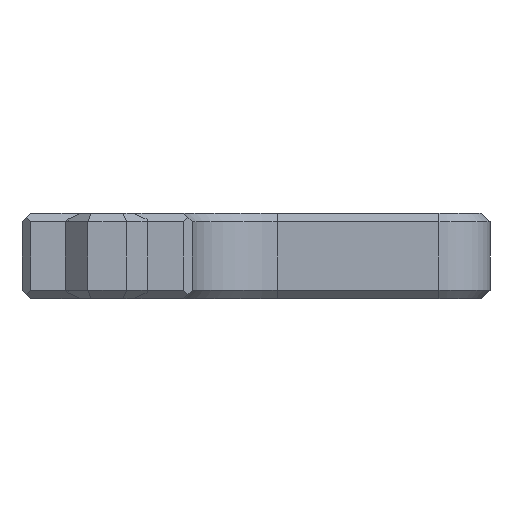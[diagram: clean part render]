
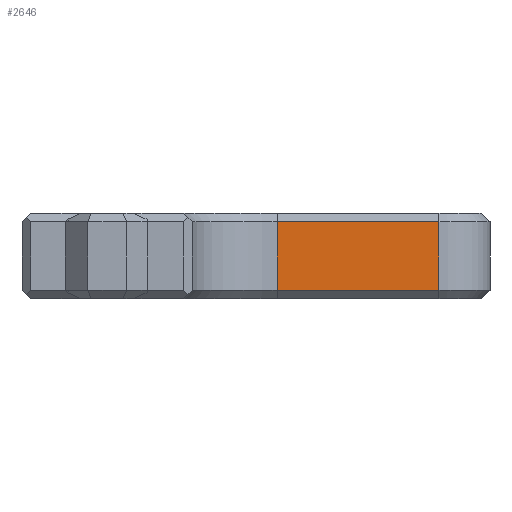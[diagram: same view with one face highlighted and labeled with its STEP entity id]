
A CAD part, left-side view. The second image highlights one B-rep face of the part: STEP entity #2646.
In plain terms, the highlighted planar face has unit normal (-1, 0, 0).
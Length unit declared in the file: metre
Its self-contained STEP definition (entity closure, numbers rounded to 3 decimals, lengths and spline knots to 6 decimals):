
#348=ORIENTED_EDGE('',*,*,#1093,.T.);
#349=ORIENTED_EDGE('',*,*,#1094,.T.);
#350=ORIENTED_EDGE('',*,*,#1095,.T.);
#351=ORIENTED_EDGE('',*,*,#1096,.T.);
#1093=EDGE_CURVE('',#1454,#1455,#1681,.F.);
#1094=EDGE_CURVE('',#1455,#1456,#1682,.T.);
#1095=EDGE_CURVE('',#1456,#1457,#1683,.T.);
#1096=EDGE_CURVE('',#1457,#1454,#1684,.T.);
#1454=VERTEX_POINT('',#4231);
#1455=VERTEX_POINT('',#4232);
#1456=VERTEX_POINT('',#4234);
#1457=VERTEX_POINT('',#4236);
#1681=LINE('',#4230,#2009);
#1682=LINE('',#4233,#2010);
#1683=LINE('',#4235,#2011);
#1684=LINE('',#4237,#2012);
#2009=VECTOR('',#3292,1.);
#2010=VECTOR('',#3293,1.);
#2011=VECTOR('',#3294,1.);
#2012=VECTOR('',#3295,1.);
#2187=EDGE_LOOP('',(#348,#349,#350,#351));
#2357=FACE_BOUND('',#2187,.T.);
#2521=PLANE('',#2841);
#2646=ADVANCED_FACE('',(#2357),#2521,.F.);
#2841=AXIS2_PLACEMENT_3D('',#4229,#3290,#3291);
#3290=DIRECTION('',(1.,0.,0.));
#3291=DIRECTION('',(0.,-1.,0.));
#3292=DIRECTION('',(0.,0.,1.));
#3293=DIRECTION('',(0.,-1.,0.));
#3294=DIRECTION('',(0.,0.,1.));
#3295=DIRECTION('',(0.,1.,0.));
#4229=CARTESIAN_POINT('',(-0.05215,-0.001325,-0.02));
#4230=CARTESIAN_POINT('',(-0.05215,0.006175,-0.02));
#4231=CARTESIAN_POINT('',(-0.05215,0.006175,-0.011));
#4232=CARTESIAN_POINT('',(-0.05215,0.006175,-0.019));
#4233=CARTESIAN_POINT('',(-0.05215,-0.012825,-0.019));
#4234=CARTESIAN_POINT('',(-0.05215,-0.012825,-0.019));
#4235=CARTESIAN_POINT('',(-0.05215,-0.012825,-0.01));
#4236=CARTESIAN_POINT('',(-0.05215,-0.012825,-0.011));
#4237=CARTESIAN_POINT('',(-0.05215,-0.001325,-0.011));
